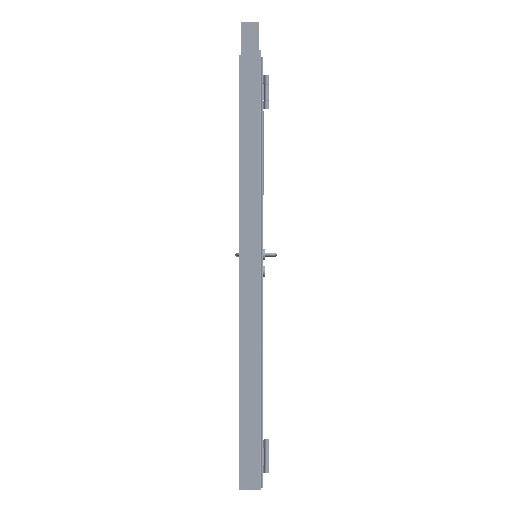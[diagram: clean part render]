
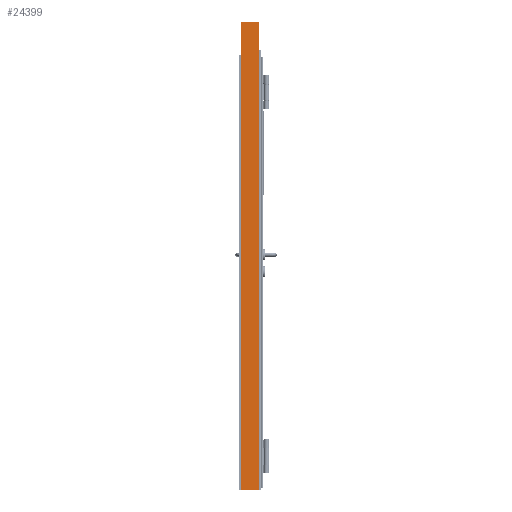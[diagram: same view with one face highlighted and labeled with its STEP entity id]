
A CAD part, left-side view. The second image highlights one B-rep face of the part: STEP entity #24399.
In plain terms, the highlighted planar face has unit normal (-1, 0, 0).
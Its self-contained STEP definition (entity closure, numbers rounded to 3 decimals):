
#16932=PLANE('',#227953);
#24399=ADVANCED_FACE('',(#39728),#16932,.T.);
#39728=FACE_OUTER_BOUND('',#49340,.T.);
#49340=EDGE_LOOP('',(#109177,#109178,#109179,#109180));
#65822=LINE('',#304470,#87126);
#65842=LINE('',#304510,#87146);
#65843=LINE('',#304512,#87147);
#65844=LINE('',#304513,#87148);
#87126=VECTOR('',#246295,1.);
#87146=VECTOR('',#246327,1.);
#87147=VECTOR('',#246330,1.);
#87148=VECTOR('',#246331,1.);
#109177=ORIENTED_EDGE('',*,*,#191475,.T.);
#109178=ORIENTED_EDGE('',*,*,#191474,.T.);
#109179=ORIENTED_EDGE('',*,*,#191476,.F.);
#109180=ORIENTED_EDGE('',*,*,#191454,.T.);
#170145=VERTEX_POINT('',#304468);
#170147=VERTEX_POINT('',#304471);
#170159=VERTEX_POINT('',#304507);
#170160=VERTEX_POINT('',#304509);
#191454=EDGE_CURVE('',#170147,#170145,#65822,.T.);
#191474=EDGE_CURVE('',#170159,#170160,#65842,.T.);
#191475=EDGE_CURVE('',#170145,#170159,#65843,.T.);
#191476=EDGE_CURVE('',#170147,#170160,#65844,.T.);
#227953=AXIS2_PLACEMENT_3D('',#304514,#246332,#246333);
#246295=DIRECTION('',(0.,-1.,0.));
#246327=DIRECTION('',(0.,1.,0.));
#246330=DIRECTION('',(0.,0.,1.));
#246331=DIRECTION('',(0.,0.,1.));
#246332=DIRECTION('',(-1.,0.,0.));
#246333=DIRECTION('',(0.,0.,1.));
#304468=CARTESIAN_POINT('',(-522.5,-46.,-8.));
#304470=CARTESIAN_POINT('',(-522.5,40.,-8.));
#304471=CARTESIAN_POINT('',(-522.5,40.,-8.));
#304507=CARTESIAN_POINT('',(-522.5,-46.,2207.));
#304509=CARTESIAN_POINT('',(-522.5,40.,2207.));
#304510=CARTESIAN_POINT('',(-522.5,40.,2207.));
#304512=CARTESIAN_POINT('',(-522.5,-46.,2207.));
#304513=CARTESIAN_POINT('',(-522.5,40.,2207.));
#304514=CARTESIAN_POINT('',(-522.5,40.,2207.));
